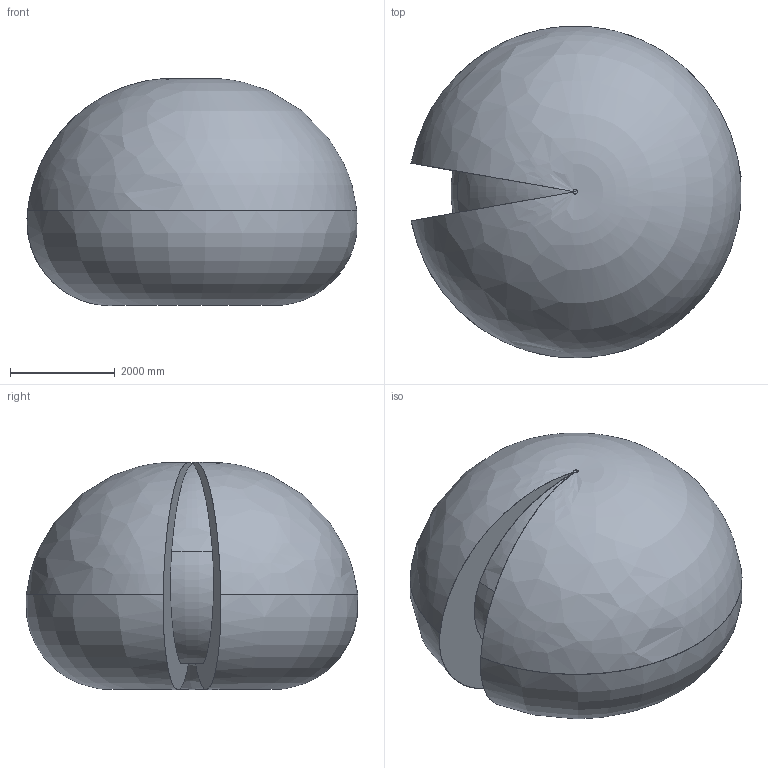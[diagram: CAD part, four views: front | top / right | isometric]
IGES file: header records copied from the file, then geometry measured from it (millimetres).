
Start section: SolidWorks IGES file using analytic representation for surfaces
Global section: file name: C:\Users\SEAMSTO1\OneDrive - ABB\PT\Macro\IGES\IRB6760-MH3_200kg-320_OC_00_IGES_J\IRB6760_All-320_OC_00_Working-envelope.igs; native system: SolidWorks 2024; preprocessor: SolidWorks 2024; author: SEAMSTO1; date: 250930.151510; units: millimetre
Bounding box: 6287.35 x 6323.86 x 4327.65 mm (x, y, z)
Surface area: 132645426.6 mm2 (no closed solid volume)
Topology: 0 solids, 0 shells, 15 faces, 476 edges, 474 vertices
Faces by surface type: bspline 15
